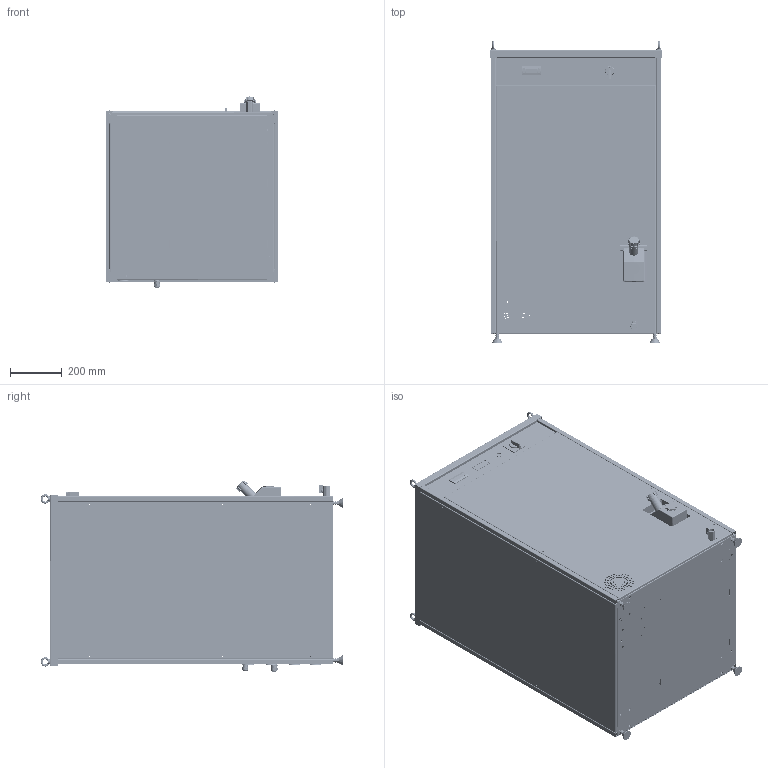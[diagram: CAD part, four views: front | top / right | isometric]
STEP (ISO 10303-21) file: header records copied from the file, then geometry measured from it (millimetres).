
FILE_DESCRIPTION (( 'STEP AP214' ), '1' );
FILE_NAME ('WCW-SCW_ECP3-B.STEP', '2019-02-08T14:17:24', ( 'Utente' ), ( 'Microsoft' ), 'SwSTEP 2.0', 'SolidWorks 2013', '' );
FILE_SCHEMA (( 'AUTOMOTIVE_DESIGN' ));
Length unit declared in the file: millimetre
Products named in the file (38): TE-EL-00007 - EW_971_230V; VR-3C-00026_000; GOLFARE M8; VR-3C-00005_000; AN-PI-00014_ANTIVIBRANTI MM PIEDE 40X20h M10; CR-3C-00019_000; VR-3C-00001_000; VR-3C-00034_001; VA-A5-00001; TAPPO 1P  FEM ; WCW-SCW_ECP3-B; CR-3C-00009_000; IN-VI-00001; SE-RP-00041_000; CR-3C-00021_001; INSERTO ESAG  1G; THREADED INSERT CYLINDRICAL HEAD M10; SE-RP-00041_CORPO; Rivelox M5 Reduced Head Hexagonal Shank._; ST-AT-00020_003; pg11_Cable-Gland-1.209.1102.15-Nelco; pg11 part2_Nut-PA-Blue-22-22-25-Nelco; VR-3C-00008_004; pg11 part1_Socket-1.209.1102.15-Nelco; VR-3C-00007_003; PG 13.5_Cable-Gland-1.209.1300.14-Nelco; VR-3C-00004_002; PG 13.5_1_Socket-1.209.1300.14-Nelco; RIVELOX M5; PG 13.5_2_Nut-PA-Grey-24-24-27-Nelco; RIVELOX M8; TA-RG-00041; SELETTORE_PICCOLO; VR-3C-00027_000
Assembly tree (76 placements, depth 3):
  WCW-SCW_ECP3-B
    VR-3C-00001_000
    CR-3C-00019_000
    VR-3C-00005_000
    VR-3C-00026_000
    VR-3C-00027_000
    VR-3C-00004_002
      VR-3C-00004_002
      RIVELOX M8  x2
      RIVELOX M5  x6
    VR-3C-00007_003
    VR-3C-00008_004
    CR-3C-00021_001
      CR-3C-00021_001
      Rivelox M5 Reduced Head Hexagonal Shank._  x7
      THREADED INSERT CYLINDRICAL HEAD M10  x4
    CR-3C-00009_000
      CR-3C-00009_000
      Rivelox M5 Reduced Head Hexagonal Shank._  x7
    VR-3C-00034_001
      VR-3C-00034_001
      RIVELOX M5  x8
    AN-PI-00014_ANTIVIBRANTI MM PIEDE 40X20h M10  x4
    GOLFARE M8  x4
    TE-EL-00007 - EW_971_230V
    SELETTORE_PICCOLO
    TA-RG-00041
    PG 13.5_Cable-Gland-1.209.1300.14-Nelco
      PG 13.5_2_Nut-PA-Grey-24-24-27-Nelco
      PG 13.5_1_Socket-1.209.1300.14-Nelco
    pg11_Cable-Gland-1.209.1102.15-Nelco
      pg11 part1_Socket-1.209.1102.15-Nelco
      pg11 part2_Nut-PA-Blue-22-22-25-Nelco
    ST-AT-00020_003  x4
    SE-RP-00041_000
      SE-RP-00041_CORPO
      INSERTO ESAG  1G
    IN-VI-00001
    TAPPO 1P  FEM 
    VA-A5-00001
Bounding box: 671 x 1174.2 x 741.27 mm (x, y, z)
Volume: 10983613 mm3; surface area: 12439340.6 mm2
Topology: 141 solids, 141 shells, 7031 faces, 18696 edges, 11980 vertices
Faces by surface type: plane 3615, cylinder 2418, bspline 442, cone 375, torus 137, sphere 44
Entity records: 226658 total; most frequent: CARTESIAN_POINT 56731, ORIENTED_EDGE 33516, DIRECTION 31628, EDGE_CURVE 16758, VERTEX_POINT 10788, VECTOR 10720, LINE 10720, AXIS2_PLACEMENT_3D 10454
